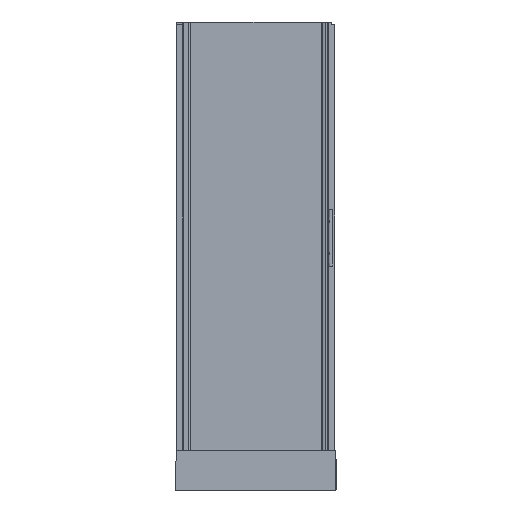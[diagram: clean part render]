
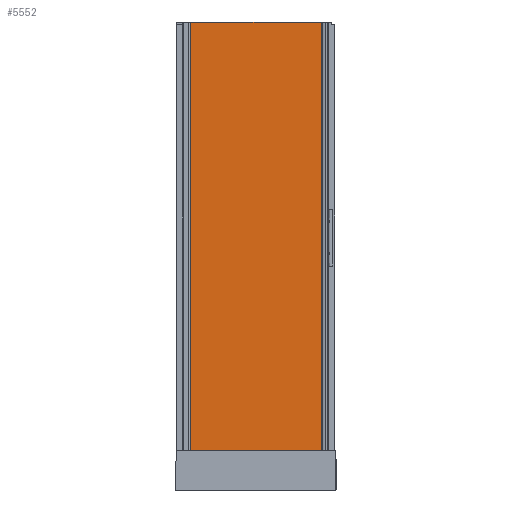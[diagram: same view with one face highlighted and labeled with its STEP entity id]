
A CAD part, left-side view. The second image highlights one B-rep face of the part: STEP entity #5552.
In plain terms, the highlighted planar face has unit normal (-1, 0, 0).
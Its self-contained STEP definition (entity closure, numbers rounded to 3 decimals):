
#5432=CARTESIAN_POINT('',(-961.316,-57.31,163.888));
#5433=VERTEX_POINT('',#5432);
#5440=CARTESIAN_POINT('',(-961.316,-57.31,2060.888));
#5441=VERTEX_POINT('',#5440);
#5442=CARTESIAN_POINT('',(-961.316,-57.31,2060.888));
#5443=DIRECTION('',(0.0,0.0,-1.0));
#5444=VECTOR('',#5443,1897.0);
#5445=LINE('',#5442,#5444);
#5446=EDGE_CURVE('',#5441,#5433,#5445,.T.);
#5470=CARTESIAN_POINT('',(-961.316,-650.31,163.888));
#5471=VERTEX_POINT('',#5470);
#5478=CARTESIAN_POINT('',(-961.316,-57.31,163.888));
#5479=DIRECTION('',(0.0,-1.0,0.0));
#5480=VECTOR('',#5479,593.0);
#5481=LINE('',#5478,#5480);
#5482=EDGE_CURVE('',#5433,#5471,#5481,.T.);
#5501=CARTESIAN_POINT('',(-961.316,-650.31,2060.888));
#5502=VERTEX_POINT('',#5501);
#5509=CARTESIAN_POINT('',(-961.316,-650.31,163.888));
#5510=DIRECTION('',(0.0,0.0,1.0));
#5511=VECTOR('',#5510,1897.0);
#5512=LINE('',#5509,#5511);
#5513=EDGE_CURVE('',#5471,#5502,#5512,.T.);
#5531=CARTESIAN_POINT('',(-961.316,-650.31,2060.888));
#5532=DIRECTION('',(0.0,1.0,0.0));
#5533=VECTOR('',#5532,593.0);
#5534=LINE('',#5531,#5533);
#5535=EDGE_CURVE('',#5502,#5441,#5534,.T.);
#5541=CARTESIAN_POINT('',(-961.316,-27.66,69.038));
#5542=DIRECTION('',(-1.0,0.0,0.0));
#5543=DIRECTION('',(0.0,-1.0,0.0));
#5544=AXIS2_PLACEMENT_3D('',#5541,#5542,#5543);
#5545=PLANE('',#5544);
#5546=ORIENTED_EDGE('',*,*,#5446,.T.);
#5547=ORIENTED_EDGE('',*,*,#5482,.T.);
#5548=ORIENTED_EDGE('',*,*,#5513,.T.);
#5549=ORIENTED_EDGE('',*,*,#5535,.T.);
#5550=EDGE_LOOP('',(#5546,#5547,#5548,#5549));
#5551=FACE_OUTER_BOUND('',#5550,.T.);
#5552=ADVANCED_FACE('',(#5551),#5545,.T.);
